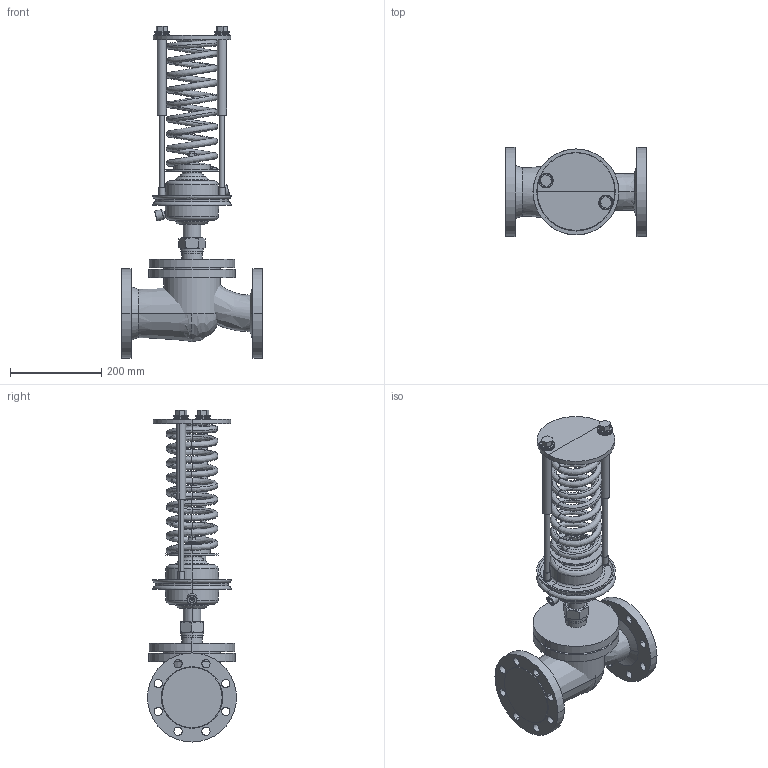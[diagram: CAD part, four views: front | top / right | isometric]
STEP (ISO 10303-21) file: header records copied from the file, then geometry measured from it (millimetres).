
FILE_DESCRIPTION(/* description */ (''),/* implementation_level */ '2;1');
FILE_NAME(/* name */ 'ETM_Регулятор давления_УРРД_НЗ_РД_DN80 0.3—1.2 МПа',/* time_stamp */ '2026-04-24T18:58:00+03:00',/* author */ (''),/* organization */ (''),/* preprocessor_version */ 'ST-DEVELOPER v20',/* originating_system */ '',/* authorisation */ '');
FILE_SCHEMA (('AP242_MANAGED_MODEL_BASED_3D_ENGINEERING_MIM_LF { 1 0 10303 442 1 1 4 }'));
Length unit declared in the file: millimetre
Products named in the file (13): TopLevelAssembly; Выдавливание; Переход; Выдавливание_
1; Переход_1; Переход_2; Переход_3; Объемная геометрия 
присоединена; Выдавливание_
2; Выдавливание_
3; Объемная геометрия 
присоединена_1; Выдавливание_
4; Пружина красная
Assembly tree (12 placements, depth 2):
  TopLevelAssembly
    Выдавливание
    Переход
    Выдавливание_
1
    Переход_1
    Переход_2
    Переход_3
    Объемная геометрия 
присоединена
    Выдавливание_
2
    Выдавливание_
3
    Объемная геометрия 
присоединена_1
    Выдавливание_
4
    Пружина красная
Bounding box: 310 x 195 x 727.25 mm (x, y, z)
Volume: 8100295.1 mm3; surface area: 988000.4 mm2
Topology: 31 solids, 31 shells, 522 faces, 1053 edges, 573 vertices
Faces by surface type: plane 181, bspline 177, cylinder 154, cone 10
Entity records: 16710 total; most frequent: CARTESIAN_POINT 5365, DIRECTION 2393, ORIENTED_EDGE 2102, EDGE_CURVE 1051, AXIS2_PLACEMENT_3D 1006, CIRCLE 635, VERTEX_POINT 573, EDGE_LOOP 560
